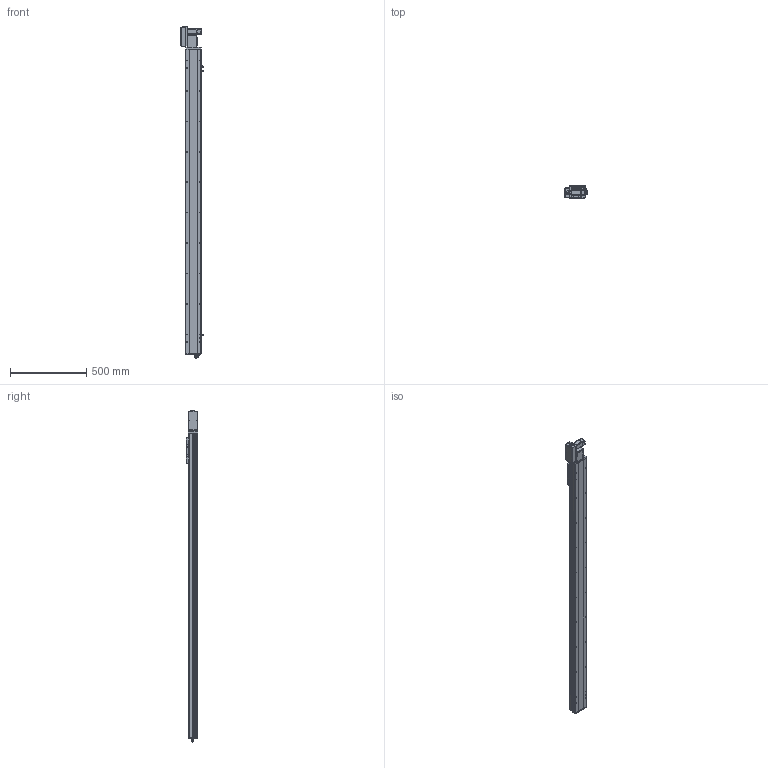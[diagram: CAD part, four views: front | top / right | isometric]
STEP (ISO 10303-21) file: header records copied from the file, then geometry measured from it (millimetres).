
FILE_DESCRIPTION (( 'STEP AP214' ), '1' );
FILE_NAME ('TPE10-L32-1750-L-T10-C4.STEP', '2023-03-13T06:15:44', ( '' ), ( '' ), 'SwSTEP 2.0', 'SolidWorks 2020', '' );
FILE_SCHEMA (( 'AUTOMOTIVE_DESIGN' ));
Length unit declared in the file: millimetre
Products named in the file (15): 葩璃 pm-t65-672^TPE10-L32-L-T10-C4; 葩璃 TPF10-L-008 耜醱啣^TPE10-L32-L-T10-C4; 葩璃 詩湍75^TPE10-L32-L-T10-C4; hexagon head bolts-full thread gb_GB_FASTENER_BOLT_STBAB A M5X16-N; hexagon socket head cap screws gb_GB_FASTENER_SCREWS_HSHCS M3X6-N; 葩璃 TPF10 詩湍揤啣 TPF10 12^TPE10-L32-L-T10-C4; 葩璃 TPE10-007 々湍釱MZ-169x88^TPE10-L32-L-T10-C4; 葩璃 TPE10-L-001 菁釱MZ-102A-01^TPE10-L32-L-T10-C4; 葩璃 TPE10-L-002 耜裔ZTMT-102B-04^TPE10-L32-L-T10-C4; 葩璃 TPT10-L-009 萇儂啣^TPE10-L32-L-T10-C4_100W; 葩璃 侂狟100W^TPE10-L32-L-T10-C4; hex nuts, style 1-grades ab gb_GB_FASTENER_NUT_SNAB1 M3-N; 葩璃 PL8-02^TPE10-L32-L-T10-C4; TPE10-L32-1750-L-T10-C4; 葩璃 TPE10 賑雄殤 TPE10^TPE10-L32-L-T10-C4
Assembly tree (28 placements, depth 2):
  TPE10-L32-1750-L-T10-C4
    葩璃 TPE10-L-001 菁釱MZ-102A-01^TPE10-L32-L-T10-C4
    葩璃 TPE10-L-002 耜裔ZTMT-102B-04^TPE10-L32-L-T10-C4  x2
    葩璃 詩湍75^TPE10-L32-L-T10-C4
    葩璃 TPE10-007 々湍釱MZ-169x88^TPE10-L32-L-T10-C4
    葩璃 TPF10-L-008 耜醱啣^TPE10-L32-L-T10-C4
    葩璃 TPE10 賑雄殤 TPE10^TPE10-L32-L-T10-C4
    葩璃 TPF10 詩湍揤啣 TPF10 12^TPE10-L32-L-T10-C4  x2
    葩璃 TPT10-L-009 萇儂啣^TPE10-L32-L-T10-C4_100W
    葩璃 pm-t65-672^TPE10-L32-L-T10-C4  x3
    葩璃 PL8-02^TPE10-L32-L-T10-C4
    葩璃 侂狟100W^TPE10-L32-L-T10-C4
    hexagon socket head cap screws gb_GB_FASTENER_SCREWS_HSHCS M3X6-N  x6
    hex nuts, style 1-grades ab gb_GB_FASTENER_NUT_SNAB1 M3-N  x6
    hexagon head bolts-full thread gb_GB_FASTENER_BOLT_STBAB A M5X16-N
Bounding box: 146.2 x 78.5 x 2182 mm (x, y, z)
Volume: 6460534.1 mm3; surface area: 1632154.6 mm2
Topology: 36 solids, 36 shells, 1652 faces, 4206 edges, 2644 vertices
Faces by surface type: plane 899, cylinder 505, cone 196, torus 26, bspline 24, sphere 2
Entity records: 38768 total; most frequent: CARTESIAN_POINT 8021, DIRECTION 6076, ORIENTED_EDGE 5840, EDGE_CURVE 2920, AXIS2_PLACEMENT_3D 2149, VERTEX_POINT 1871, VECTOR 1778, LINE 1778
